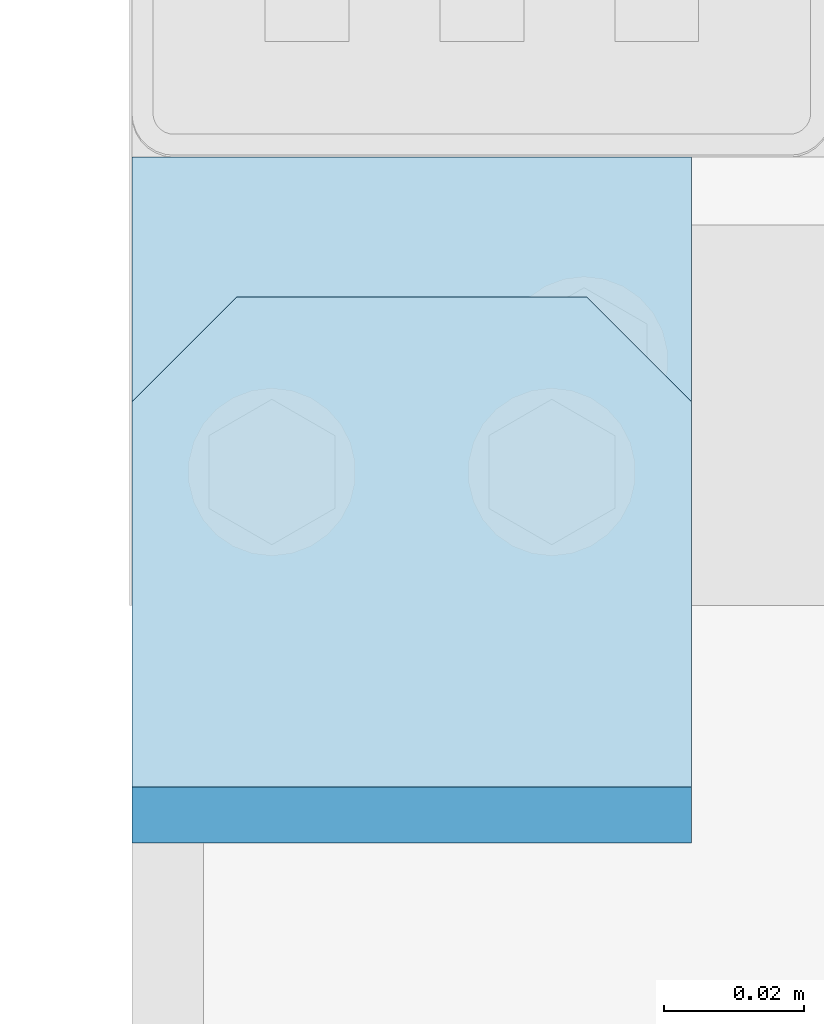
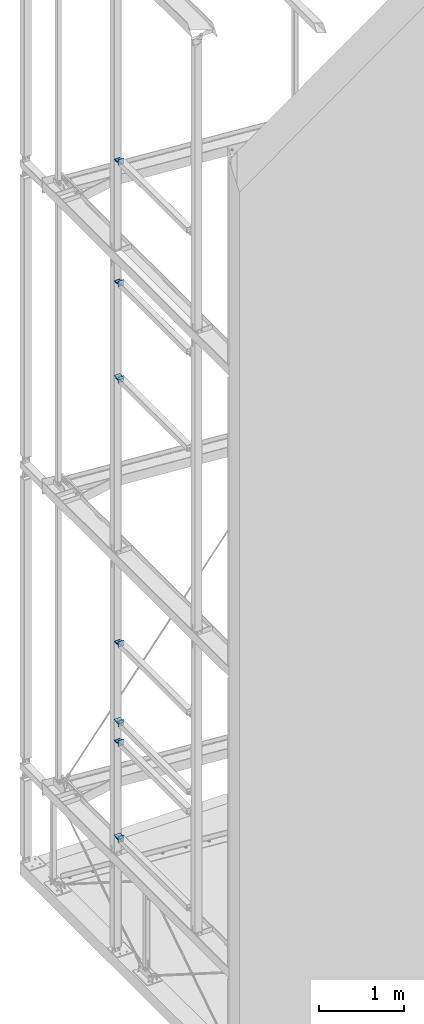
# One storey, part 112 of 271: 21 plates, 10 elements without a shape of their own.
"""IFC2X3 building model written with IfcOpenShell, lengths in millimetres."""

from ifc_helpers import new_model, si_unit, frame, origin_with_axes, place, context, subcontext, project, spatial, polyline, outline, extrude, material, type_object, element, aggregate, save


model = new_model("IFC2X3")

# Units and contexts
model_context = context("Model", 3, precision=1e-05, world=origin_with_axes())
body_context = subcontext(model_context, "Body", "Model", "MODEL_VIEW")
ifc_project = project(units=[si_unit("LENGTHUNIT", "METRE", prefix="MILLI"), si_unit("AREAUNIT", "SQUARE_METRE"), si_unit("VOLUMEUNIT", "CUBIC_METRE"), si_unit("MASSUNIT", "GRAM", prefix="KILO"), si_unit("TIMEUNIT", "SECOND"), si_unit("PLANEANGLEUNIT", "RADIAN"), si_unit("SOLIDANGLEUNIT", "STERADIAN"), si_unit("THERMODYNAMICTEMPERATUREUNIT", "DEGREE_CELSIUS"), si_unit("LUMINOUSINTENSITYUNIT", "LUMEN")], contexts=[model_context])

# Site, building, storey
site_placement = place(None, origin_with_axes())
site = spatial("IfcSite", under=ifc_project, at=site_placement, Name="Undefined", CompositionType="ELEMENT")
building_placement = place(site_placement, origin_with_axes())
building = spatial("IfcBuilding", under=site, at=building_placement, Name="Undefined", CompositionType="ELEMENT")
storey_placement = place(building_placement, origin_with_axes())
storey = spatial("IfcBuildingStorey", under=building, at=storey_placement, Name="Undefined", CompositionType="ELEMENT", Elevation=0.0)

# Assembly, plate
assembly_1_placement = place(storey_placement, origin_with_axes())
assembly_1 = element("IfcElementAssembly", 1, at=assembly_1_placement, inside=storey, AssemblyPlace="NOTDEFINED", PredefinedType="RIGID_FRAME")
ifc_material = material(Name="STEEL/S355JR")
plate_type_1 = type_object("IfcPlateType", Name="BL10*70", PredefinedType="NOTDEFINED")
plate_1_placement = place(assembly_1_placement, frame((68.375687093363, 2714.05211980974, 4498.8500000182), z_axis=(0.0, 0.0, 1.0), x_axis=(-0.707106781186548, 0.707106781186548, 0.0)))
plate_1 = element("IfcPlate", 2, at=plate_1_placement, type_object=plate_type_1, material=ifc_material, Name="BLACHA", ObjectType="BL10*70", context=body_context, shape_type="SweptSolid", body=[
    extrude(outline(polyline([(0.0, 0.0), (21.2132034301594, 1.09139364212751e-11), (56.5685424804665, 35.3553390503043), (56.568542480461, 56.5685424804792), (17.6776695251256, 95.4594192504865), (-38.890872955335, 38.8908729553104), (0.0, 0.0)])), frame((0.0, 0.0, -5.0), z_axis=(0.0, 0.0, 1.0), x_axis=(1.0, 0.0, 0.0)), (0.0, 0.0, 1.0), 10.0),
])

assembly_2_placement = place(storey_placement, origin_with_axes())
assembly_2 = element("IfcElementAssembly", 3, at=assembly_2_placement, inside=storey, AssemblyPlace="NOTDEFINED", PredefinedType="RIGID_FRAME")
plate_2_placement = place(assembly_2_placement, frame((68.375687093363, 2749.05211980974, 4488.8500000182), z_axis=(0.0, 0.0, 1.0), x_axis=(-1.0, 0.0, 1.38777878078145e-17)))
plate_2 = element("IfcPlate", 4, at=plate_2_placement, type_object=plate_type_1, material=ifc_material, Name="BLACHA", ObjectType="BL10*70", context=body_context, shape_type="SweptSolid", body=[
    extrude(outline(polyline([(0.0, 0.0), (80.0, 0.0), (80.0, 70.0), (0.0, 70.0), (0.0, 0.0)])), frame((0.0, 0.0, -5.0), z_axis=(0.0, 0.0, 1.0), x_axis=(1.0, 0.0, 0.0)), (0.0, 0.0, 1.0), 10.0),
])

assembly_3_placement = place(storey_placement, origin_with_axes())
assembly_3 = element("IfcElementAssembly", 5, at=assembly_3_placement, inside=storey, AssemblyPlace="NOTDEFINED", PredefinedType="RIGID_FRAME")
plate_3_placement = place(assembly_3_placement, frame((-11.624312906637, 2714.05211980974, 3358.8500000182), z_axis=(0.0, 0.0, -1.0), x_axis=(0.707106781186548, 0.707106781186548, 0.0)))
plate_3 = element("IfcPlate", 6, at=plate_3_placement, type_object=plate_type_1, material=ifc_material, Name="BLACHA", ObjectType="BL10*70", context=body_context, shape_type="SweptSolid", body=[
    extrude(outline(polyline([(0.0, 0.0), (21.2132034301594, 1.09139364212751e-11), (56.5685424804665, 35.3553390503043), (56.568542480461, 56.5685424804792), (17.6776695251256, 95.4594192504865), (-38.890872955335, 38.8908729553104), (0.0, 0.0)])), frame((0.0, 0.0, -5.0), z_axis=(0.0, 0.0, 1.0), x_axis=(1.0, 0.0, 0.0)), (0.0, 0.0, 1.0), 10.0),
])

# Plate
plate_4_placement = place(assembly_2_placement, frame((-11.624312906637, 2749.05211980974, 3368.8500000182), z_axis=(0.0, 0.0, -1.0), x_axis=(1.0, 0.0, 0.0)))
plate_4 = element("IfcPlate", 7, at=plate_4_placement, type_object=plate_type_1, material=ifc_material, Name="BLACHA", ObjectType="BL10*70", context=body_context, shape_type="SweptSolid", body=[
    extrude(outline(polyline([(0.0, 0.0), (80.0, 0.0), (80.0, 70.0), (0.0, 70.0), (0.0, 0.0)])), frame((0.0, 0.0, -5.0), z_axis=(0.0, 0.0, 1.0), x_axis=(1.0, 0.0, 0.0)), (0.0, 0.0, 1.0), 10.0),
])

# Assembly, plate
assembly_4_placement = place(storey_placement, origin_with_axes())
assembly_4 = element("IfcElementAssembly", 8, at=assembly_4_placement, inside=storey, AssemblyPlace="NOTDEFINED", PredefinedType="RIGID_FRAME")
plate_5_placement = place(assembly_4_placement, frame((68.375687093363, 2714.05211980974, 3079.3500000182), z_axis=(0.0, 0.0, 1.0), x_axis=(-0.707106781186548, 0.707106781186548, 0.0)))
plate_5 = element("IfcPlate", 9, at=plate_5_placement, type_object=plate_type_1, material=ifc_material, Name="BLACHA", ObjectType="BL10*70", context=body_context, shape_type="SweptSolid", body=[
    extrude(outline(polyline([(0.0, 0.0), (21.2132034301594, 1.09139364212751e-11), (56.5685424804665, 35.3553390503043), (56.568542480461, 56.5685424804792), (17.6776695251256, 95.4594192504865), (-38.890872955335, 38.8908729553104), (0.0, 0.0)])), frame((0.0, 0.0, -5.0), z_axis=(0.0, 0.0, 1.0), x_axis=(1.0, 0.0, 0.0)), (0.0, 0.0, 1.0), 10.0),
])

# Plate
plate_6_placement = place(assembly_2_placement, frame((68.375687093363, 2749.05211980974, 3069.3500000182), z_axis=(0.0, 0.0, 1.0), x_axis=(-1.0, 0.0, 1.38777878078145e-17)))
plate_6 = element("IfcPlate", 10, at=plate_6_placement, type_object=plate_type_1, material=ifc_material, Name="BLACHA", ObjectType="BL10*70", context=body_context, shape_type="SweptSolid", body=[
    extrude(outline(polyline([(0.0, 0.0), (80.0, 0.0), (80.0, 70.0), (0.0, 70.0), (0.0, 0.0)])), frame((0.0, 0.0, -5.0), z_axis=(0.0, 0.0, 1.0), x_axis=(1.0, 0.0, 0.0)), (0.0, 0.0, 1.0), 10.0),
])

# Assembly, plate
assembly_5_placement = place(storey_placement, origin_with_axes())
assembly_5 = element("IfcElementAssembly", 11, at=assembly_5_placement, inside=storey, AssemblyPlace="NOTDEFINED", PredefinedType="RIGID_FRAME")
plate_7_placement = place(assembly_5_placement, frame((-11.624312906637, 2714.05211980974, 1699.3500000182), z_axis=(0.0, 0.0, -1.0), x_axis=(0.707106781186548, 0.707106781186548, 0.0)))
plate_7 = element("IfcPlate", 12, at=plate_7_placement, type_object=plate_type_1, material=ifc_material, Name="BLACHA", ObjectType="BL10*70", context=body_context, shape_type="SweptSolid", body=[
    extrude(outline(polyline([(0.0, 0.0), (21.2132034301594, 1.09139364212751e-11), (56.5685424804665, 35.3553390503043), (56.568542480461, 56.5685424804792), (17.6776695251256, 95.4594192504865), (-38.890872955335, 38.8908729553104), (0.0, 0.0)])), frame((0.0, 0.0, -5.0), z_axis=(0.0, 0.0, 1.0), x_axis=(1.0, 0.0, 0.0)), (0.0, 0.0, 1.0), 10.0),
])

# Plate
plate_8_placement = place(assembly_2_placement, frame((-11.624312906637, 2749.05211980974, 1709.3500000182), z_axis=(0.0, 0.0, -1.0), x_axis=(1.0, 0.0, 0.0)))
plate_8 = element("IfcPlate", 13, at=plate_8_placement, type_object=plate_type_1, material=ifc_material, Name="BLACHA", ObjectType="BL10*70", context=body_context, shape_type="SweptSolid", body=[
    extrude(outline(polyline([(0.0, 0.0), (80.0, 0.0), (80.0, 70.0), (0.0, 70.0), (0.0, 0.0)])), frame((0.0, 0.0, -5.0), z_axis=(0.0, 0.0, 1.0), x_axis=(1.0, 0.0, 0.0)), (0.0, 0.0, 1.0), 10.0),
])

aggregate(assembly_2, [plate_2, plate_4, plate_6, plate_8])

# Assembly, plate
assembly_6_placement = place(storey_placement, origin_with_axes())
assembly_6 = element("IfcElementAssembly", 14, at=assembly_6_placement, inside=storey, AssemblyPlace="NOTDEFINED", PredefinedType="RIGID_FRAME")
plate_9_placement = place(assembly_6_placement, frame((68.375687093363, 2714.05211980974, 9669.84999990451), z_axis=(0.0, 0.0, 1.0), x_axis=(-0.707106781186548, 0.707106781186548, 0.0)))
plate_9 = element("IfcPlate", 15, at=plate_9_placement, type_object=plate_type_1, material=ifc_material, Name="BLACHA", ObjectType="BL10*70", context=body_context, shape_type="SweptSolid", body=[
    extrude(outline(polyline([(0.0, 0.0), (21.2132034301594, 1.09139364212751e-11), (56.5685424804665, 35.3553390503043), (56.568542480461, 56.5685424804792), (17.6776695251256, 95.4594192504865), (-38.890872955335, 38.8908729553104), (0.0, 0.0)])), frame((0.0, 0.0, -5.0), z_axis=(0.0, 0.0, 1.0), x_axis=(1.0, 0.0, 0.0)), (0.0, 0.0, 1.0), 10.0),
])

assembly_7_placement = place(storey_placement, origin_with_axes())
assembly_7 = element("IfcElementAssembly", 16, at=assembly_7_placement, inside=storey, AssemblyPlace="NOTDEFINED", PredefinedType="RIGID_FRAME")
plate_10_placement = place(assembly_7_placement, frame((68.375687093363, 2749.05211980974, 9659.84999990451), z_axis=(0.0, 0.0, 1.0), x_axis=(-1.0, 0.0, 1.38777878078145e-17)))
plate_10 = element("IfcPlate", 17, at=plate_10_placement, type_object=plate_type_1, material=ifc_material, Name="BLACHA", ObjectType="BL10*70", context=body_context, shape_type="SweptSolid", body=[
    extrude(outline(polyline([(0.0, 0.0), (80.0, 0.0), (80.0, 70.0), (0.0, 70.0), (0.0, 0.0)])), frame((0.0, 0.0, -5.0), z_axis=(0.0, 0.0, 1.0), x_axis=(1.0, 0.0, 0.0)), (0.0, 0.0, 1.0), 10.0),
])

assembly_8_placement = place(storey_placement, origin_with_axes())
assembly_8 = element("IfcElementAssembly", 18, at=assembly_8_placement, inside=storey, AssemblyPlace="NOTDEFINED", PredefinedType="RIGID_FRAME")
plate_11_placement = place(assembly_8_placement, frame((-11.624312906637, 2714.05211980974, 8289.84999990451), z_axis=(0.0, 0.0, -1.0), x_axis=(0.707106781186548, 0.707106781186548, 0.0)))
plate_11 = element("IfcPlate", 19, at=plate_11_placement, type_object=plate_type_1, material=ifc_material, Name="BLACHA", ObjectType="BL10*70", context=body_context, shape_type="SweptSolid", body=[
    extrude(outline(polyline([(0.0, 0.0), (21.2132034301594, 1.09139364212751e-11), (56.5685424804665, 35.3553390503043), (56.568542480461, 56.5685424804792), (17.6776695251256, 95.4594192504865), (-38.890872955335, 38.8908729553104), (0.0, 0.0)])), frame((0.0, 0.0, -5.0), z_axis=(0.0, 0.0, 1.0), x_axis=(1.0, 0.0, 0.0)), (0.0, 0.0, 1.0), 10.0),
])

# Plate
plate_12_placement = place(assembly_7_placement, frame((-11.624312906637, 2749.05211980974, 8299.84999990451), z_axis=(0.0, 0.0, -1.0), x_axis=(1.0, 0.0, 0.0)))
plate_12 = element("IfcPlate", 20, at=plate_12_placement, type_object=plate_type_1, material=ifc_material, Name="BLACHA", ObjectType="BL10*70", context=body_context, shape_type="SweptSolid", body=[
    extrude(outline(polyline([(0.0, 0.0), (80.0, 0.0), (80.0, 70.0), (0.0, 70.0), (0.0, 0.0)])), frame((0.0, 0.0, -5.0), z_axis=(0.0, 0.0, 1.0), x_axis=(1.0, 0.0, 0.0)), (0.0, 0.0, 1.0), 10.0),
])

aggregate(assembly_7, [plate_10, plate_12])

# Assembly, plate
assembly_9_placement = place(storey_placement, origin_with_axes())
assembly_9 = element("IfcElementAssembly", 21, at=assembly_9_placement, inside=storey, AssemblyPlace="NOTDEFINED", PredefinedType="RIGID_FRAME")
plate_13_placement = place(assembly_9_placement, frame((68.375687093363, 2714.05211980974, 11411.8499999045), z_axis=(0.0, 0.0, 1.0), x_axis=(-0.707106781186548, 0.707106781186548, 0.0)))
plate_13 = element("IfcPlate", 22, at=plate_13_placement, type_object=plate_type_1, material=ifc_material, Name="BLACHA", ObjectType="BL10*70", context=body_context, shape_type="SweptSolid", body=[
    extrude(outline(polyline([(0.0, 0.0), (21.2132034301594, 1.09139364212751e-11), (56.5685424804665, 35.3553390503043), (56.568542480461, 56.5685424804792), (17.6776695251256, 95.4594192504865), (-38.890872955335, 38.8908729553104), (0.0, 0.0)])), frame((0.0, 0.0, -5.0), z_axis=(0.0, 0.0, 1.0), x_axis=(1.0, 0.0, 0.0)), (0.0, 0.0, 1.0), 10.0),
])

assembly_10_placement = place(storey_placement, origin_with_axes())
assembly_10 = element("IfcElementAssembly", 23, at=assembly_10_placement, inside=storey, AssemblyPlace="NOTDEFINED", PredefinedType="RIGID_FRAME")
plate_14_placement = place(assembly_10_placement, frame((68.375687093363, 2749.05211980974, 11401.8499999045), z_axis=(0.0, 0.0, 1.0), x_axis=(-1.0, 0.0, 1.38777878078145e-17)))
plate_14 = element("IfcPlate", 24, at=plate_14_placement, type_object=plate_type_1, material=ifc_material, Name="BLACHA", ObjectType="BL10*70", context=body_context, shape_type="SweptSolid", body=[
    extrude(outline(polyline([(0.0, 0.0), (80.0, 0.0), (80.0, 70.0), (0.0, 70.0), (0.0, 0.0)])), frame((0.0, 0.0, -5.0), z_axis=(0.0, 0.0, 1.0), x_axis=(1.0, 0.0, 0.0)), (0.0, 0.0, 1.0), 10.0),
])
aggregate(assembly_10, [plate_14])

# Plate
plate_type_2 = type_object("IfcPlateType", Name="BL8*80", PredefinedType="NOTDEFINED")
plate_15_placement = place(assembly_1_placement, frame((68.375687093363, 2655.05211980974, 4458.8500000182), z_axis=(0.0, 1.0, 0.0), x_axis=(-1.0, 0.0, 1.38777878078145e-17)))
plate_15 = element("IfcPlate", 25, at=plate_15_placement, type_object=plate_type_2, material=ifc_material, Name="BLACHA", ObjectType="BL8*80", context=body_context, shape_type="SweptSolid", body=[
    extrude(outline(polyline([(0.0, 0.0), (80.0, 0.0), (80.0, 80.0), (0.0, 80.0), (0.0, 0.0)])), frame((0.0, 0.0, -4.0), z_axis=(0.0, 0.0, 1.0), x_axis=(1.0, 0.0, 0.0)), (0.0, 0.0, 1.0), 8.0),
])

aggregate(assembly_1, [plate_15, plate_1])

plate_16_placement = place(assembly_3_placement, frame((-11.624312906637, 2655.05211980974, 3398.8500000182), z_axis=(0.0, 1.0, 0.0), x_axis=(1.0, 0.0, 0.0)))
plate_16 = element("IfcPlate", 26, at=plate_16_placement, type_object=plate_type_2, material=ifc_material, Name="BLACHA", ObjectType="BL8*80", context=body_context, shape_type="SweptSolid", body=[
    extrude(outline(polyline([(0.0, 0.0), (80.0, 0.0), (80.0, 80.0), (0.0, 80.0), (0.0, 0.0)])), frame((0.0, 0.0, -4.0), z_axis=(0.0, 0.0, 1.0), x_axis=(1.0, 0.0, 0.0)), (0.0, 0.0, 1.0), 8.0),
])

aggregate(assembly_3, [plate_16, plate_3])

plate_17_placement = place(assembly_4_placement, frame((68.375687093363, 2655.05211980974, 3039.3500000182), z_axis=(0.0, 1.0, 0.0), x_axis=(-1.0, 0.0, 1.38777878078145e-17)))
plate_17 = element("IfcPlate", 27, at=plate_17_placement, type_object=plate_type_2, material=ifc_material, Name="BLACHA", ObjectType="BL8*80", context=body_context, shape_type="SweptSolid", body=[
    extrude(outline(polyline([(0.0, 0.0), (80.0, 0.0), (80.0, 80.0), (0.0, 80.0), (0.0, 0.0)])), frame((0.0, 0.0, -4.0), z_axis=(0.0, 0.0, 1.0), x_axis=(1.0, 0.0, 0.0)), (0.0, 0.0, 1.0), 8.0),
])

aggregate(assembly_4, [plate_17, plate_5])

plate_18_placement = place(assembly_5_placement, frame((-11.624312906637, 2655.05211980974, 1739.3500000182), z_axis=(0.0, 1.0, 0.0), x_axis=(1.0, 0.0, 0.0)))
plate_18 = element("IfcPlate", 28, at=plate_18_placement, type_object=plate_type_2, material=ifc_material, Name="BLACHA", ObjectType="BL8*80", context=body_context, shape_type="SweptSolid", body=[
    extrude(outline(polyline([(0.0, 0.0), (80.0, 0.0), (80.0, 80.0), (0.0, 80.0), (0.0, 0.0)])), frame((0.0, 0.0, -4.0), z_axis=(0.0, 0.0, 1.0), x_axis=(1.0, 0.0, 0.0)), (0.0, 0.0, 1.0), 8.0),
])

aggregate(assembly_5, [plate_18, plate_7])

plate_19_placement = place(assembly_6_placement, frame((68.375687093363, 2655.05211980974, 9629.84999990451), z_axis=(0.0, 1.0, 0.0), x_axis=(-1.0, 0.0, 1.38777878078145e-17)))
plate_19 = element("IfcPlate", 29, at=plate_19_placement, type_object=plate_type_2, material=ifc_material, Name="BLACHA", ObjectType="BL8*80", context=body_context, shape_type="SweptSolid", body=[
    extrude(outline(polyline([(0.0, 0.0), (80.0, 0.0), (80.0, 80.0), (0.0, 80.0), (0.0, 0.0)])), frame((0.0, 0.0, -4.0), z_axis=(0.0, 0.0, 1.0), x_axis=(1.0, 0.0, 0.0)), (0.0, 0.0, 1.0), 8.0),
])

aggregate(assembly_6, [plate_19, plate_9])

plate_20_placement = place(assembly_8_placement, frame((-11.624312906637, 2655.05211980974, 8329.84999990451), z_axis=(0.0, 1.0, 0.0), x_axis=(1.0, 0.0, 0.0)))
plate_20 = element("IfcPlate", 30, at=plate_20_placement, type_object=plate_type_2, material=ifc_material, Name="BLACHA", ObjectType="BL8*80", context=body_context, shape_type="SweptSolid", body=[
    extrude(outline(polyline([(0.0, 0.0), (80.0, 0.0), (80.0, 80.0), (0.0, 80.0), (0.0, 0.0)])), frame((0.0, 0.0, -4.0), z_axis=(0.0, 0.0, 1.0), x_axis=(1.0, 0.0, 0.0)), (0.0, 0.0, 1.0), 8.0),
])

aggregate(assembly_8, [plate_20, plate_11])

plate_21_placement = place(assembly_9_placement, frame((68.375687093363, 2655.05211980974, 11371.8499999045), z_axis=(0.0, 1.0, 0.0), x_axis=(-1.0, 0.0, 1.38777878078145e-17)))
plate_21 = element("IfcPlate", 31, at=plate_21_placement, type_object=plate_type_2, material=ifc_material, Name="BLACHA", ObjectType="BL8*80", context=body_context, shape_type="SweptSolid", body=[
    extrude(outline(polyline([(0.0, 0.0), (80.0, 0.0), (80.0, 80.0), (0.0, 80.0), (0.0, 0.0)])), frame((0.0, 0.0, -4.0), z_axis=(0.0, 0.0, 1.0), x_axis=(1.0, 0.0, 0.0)), (0.0, 0.0, 1.0), 8.0),
])

aggregate(assembly_9, [plate_21, plate_13])

save(model, "model.ifc")
